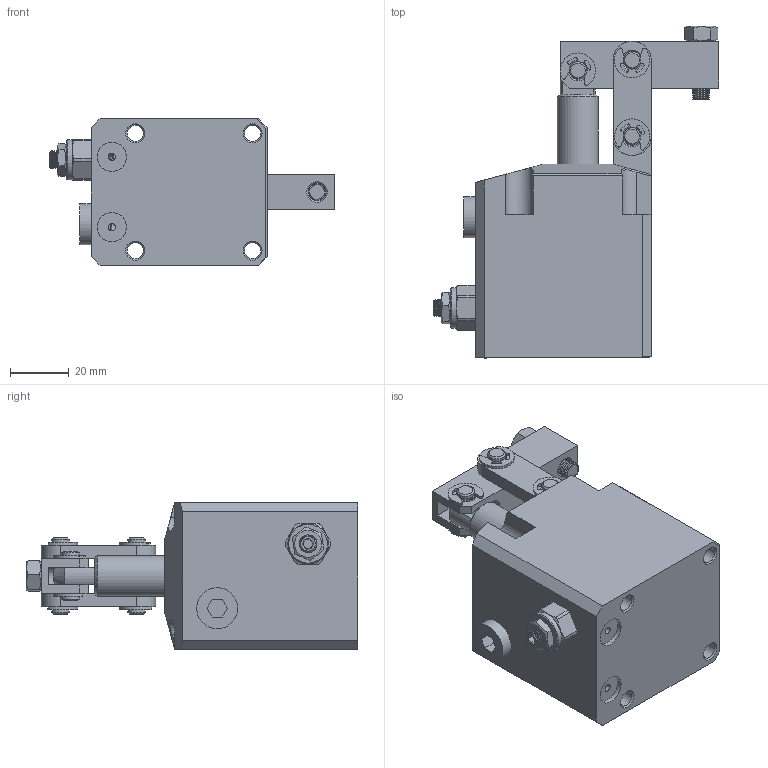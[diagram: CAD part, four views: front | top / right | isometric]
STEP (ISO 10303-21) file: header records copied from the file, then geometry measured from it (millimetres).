
FILE_DESCRIPTION(/* description */ ('STEP AP203'),/* implementation_level */ '2;1');
FILE_NAME(/* name */ 'D:\Vault_2016\Projekty\Clamptek\Hydraulic\CBLU\CBLU-30\STEP\CBLU-30C.stp',/* time_stamp */ '2021-05-06T12:05:50+02:00',/* author */ ('user'),/* organization */ (''),/* preprocessor_version */ 'ST-DEVELOPER v18.1',/* originating_system */ 'Autodesk Inventor 2021',/* authorisation */ '');
FILE_SCHEMA (('AUTOMOTIVE_DESIGN { 1 0 10303 214 3 1 1 }'));
Length unit declared in the file: millimetre
Products named in the file (12): CBLU-30C; ±¾ÌåC_1_1_1; 30Á¬¸Ë_2; hex nuts, style 1-grades ab gb_GB_FASTENER_NUT_SNAB1 M6-N_1; hexagon socket head cap screws gb_GB_FASTENER_SCREWS_HSHCS M6X25-S_1_
1; ³¤ÏúÖá_1_1; 30¶ÌÏúÖá_2; 30»îÈû¸Ë_1_3_1_1; 30Ñ¹°å_1; e rings gb_GB_CONNECTING_PIECE_RINGS_HR 6_1_1; CZL10µ÷ËÙ·§_1_2; ÄÚÁù½Ç¶ÂÍ·×
îÐÂ_1
Assembly tree (18 placements, depth 2):
  CBLU-30C
    ±¾ÌåC_1_1_1
    30Á¬¸Ë_2  x2
    hex nuts, style 1-grades ab gb_GB_FASTENER_NUT_SNAB1 M6-N_1
    hexagon socket head cap screws gb_GB_FASTENER_SCREWS_HSHCS M6X25-S_1_
1
    ³¤ÏúÖá_1_1  x2
    e rings gb_GB_CONNECTING_PIECE_RINGS_HR 6_1_1  x6
    30¶ÌÏúÖá_2
    30»îÈû¸Ë_1_3_1_1
    30Ñ¹°å_1
    CZL10µ÷ËÙ·§_1_2
    ÄÚÁù½Ç¶ÂÍ·×
îÐÂ_1
Bounding box: 97.3 x 113.2 x 50 mm (x, y, z)
Volume: 188554.4 mm3; surface area: 49185.9 mm2
Topology: 21 solids, 21 shells, 677 faces, 1784 edges, 1166 vertices
Faces by surface type: cylinder 243, plane 218, cone 153, bspline 50, torus 13
Full cylindrical faces by diameter (mm): 1 x6, 1.6 x1, 2 x2, 2.5 x1, 3.3 x1, 3.8 x1, 4.9 x3, 4.917 x5, 5 x5, 5.5 x4, 5.6 x1, 6 x74, 6.1 x1, 7 x1, 8 x3, 8.7 x1, 8.8 x1, 9 x1, 10 x2, 12.6 x1, 12.7 x1, 13.8 x1, 14 x3, 30 x2, 36 x1, 37 x1
Entity records: 29326 total; most frequent: CARTESIAN_POINT 15410, ORIENTED_EDGE 2904, DIRECTION 2797, EDGE_CURVE 1452, AXIS2_PLACEMENT_3D 1091, VERTEX_POINT 947, EDGE_LOOP 623, LINE 615
